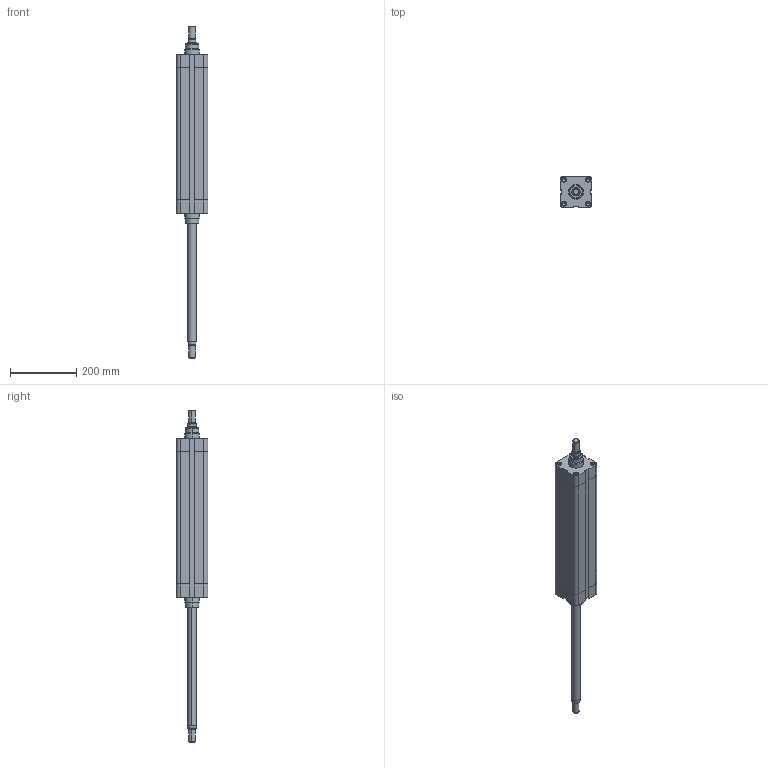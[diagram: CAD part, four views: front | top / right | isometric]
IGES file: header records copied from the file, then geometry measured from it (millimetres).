
Global section: file name: No Iges File Name specified; native system: AutoDesk Inventor R6.1; preprocessor: AutoDesk Inventor Iges Exporter R6.1; author: No Author specified; organization: No Organization specified; date: 20040107.171321; units: millimetre
Bounding box: 95.5 x 95.5 x 1000 mm (x, y, z)
Volume: 4473071.7 mm3; surface area: 353579.6 mm2
Topology: 2 solids, 2 shells, 236 faces, 564 edges, 356 vertices
Faces by surface type: plane 80, bspline 62, cylinder 42, revolution 32, cone 16, torus 4
